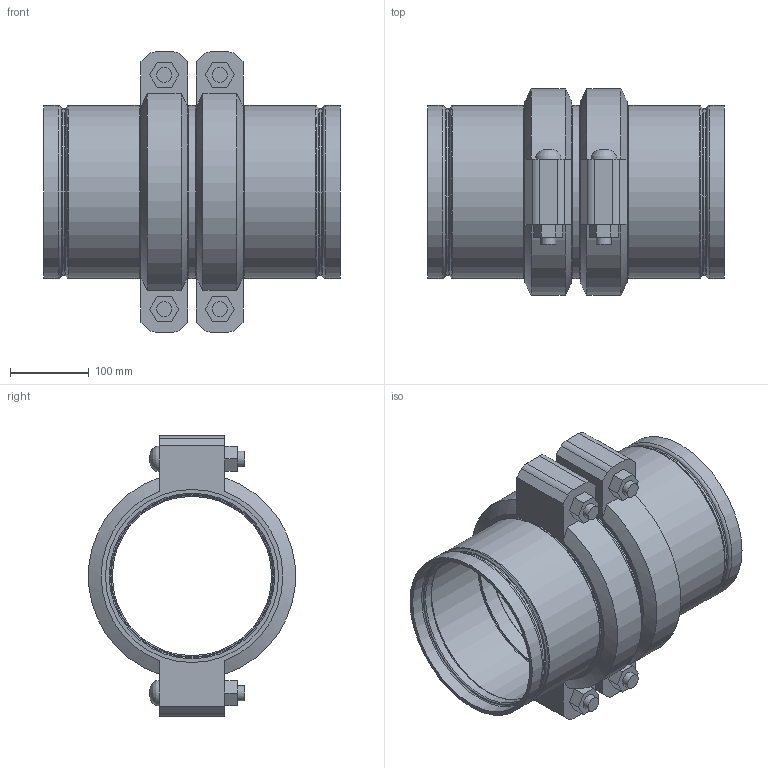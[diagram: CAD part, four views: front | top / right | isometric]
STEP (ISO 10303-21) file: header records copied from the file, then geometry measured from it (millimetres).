
FILE_DESCRIPTION(/* description */ ('VIC STRENGTHIN 100 EXPANSION JOINT 2 COUPLINGS COMPRESSED STYLE E155 (ST1)','CAx-IF Rec.Pracs.---Representation and Presentation of Product Manufacturing Information (PMI)---4.0---2014-10-13'),/* implementation_level */ '2;1');
FILE_NAME(/* name */ 'C:\Users\Vjadhav\AppData\Roaming\Autodesk\ApplicationPlugins\Victaulic.Temp\A523\Victaulic_SS-StrengThin 100_Expansion Joint_Compressed_2 Couplings_Style E155 (ST1)_8 (200).stp',/* time_stamp */ '2021-07-23T12:29:23+06:00',/* author */ ('kkamble'),/* organization */ ('Victaulic'),/* preprocessor_version */ 'ST-DEVELOPER v17.2',/* originating_system */ 'Autodesk Inventor 2019',/* authorisation */ '');
FILE_SCHEMA (('AP242_MANAGED_MODEL_BASED_3D_ENGINEERING_MIM_LF { 1 0 10303 442 1 1 4 }'));
Length unit declared in the file: inch
Products named in the file (4): E155-08.0; E494G-08.0; Nipple-08.0; 075-08.0
Assembly tree (5 placements, depth 2):
  E155-08.0
    E494G-08.0  x2
    Nipple-08.0
    075-08.0  x2
Bounding box: 375.41 x 261.72 x 354.84 mm (x, y, z)
Volume: 4117407.2 mm3; surface area: 883015.1 mm2
Topology: 5 solids, 9 shells, 188 faces, 514 edges, 370 vertices
Faces by surface type: plane 88, cylinder 52, torus 32, cone 12, bspline 4
Full cylindrical faces by diameter (mm): 19.05 x8, 21.209 x4, 201.651 x2, 202.717 x1, 204.851 x2, 209.525 x6, 211.201 x2, 214.401 x4, 219.075 x11
Entity records: 3650 total; most frequent: CARTESIAN_POINT 646, DIRECTION 645, ORIENTED_EDGE 544, AXIS2_PLACEMENT_3D 274, EDGE_CURVE 272, VERTEX_POINT 197, CIRCLE 167, EDGE_LOOP 125
